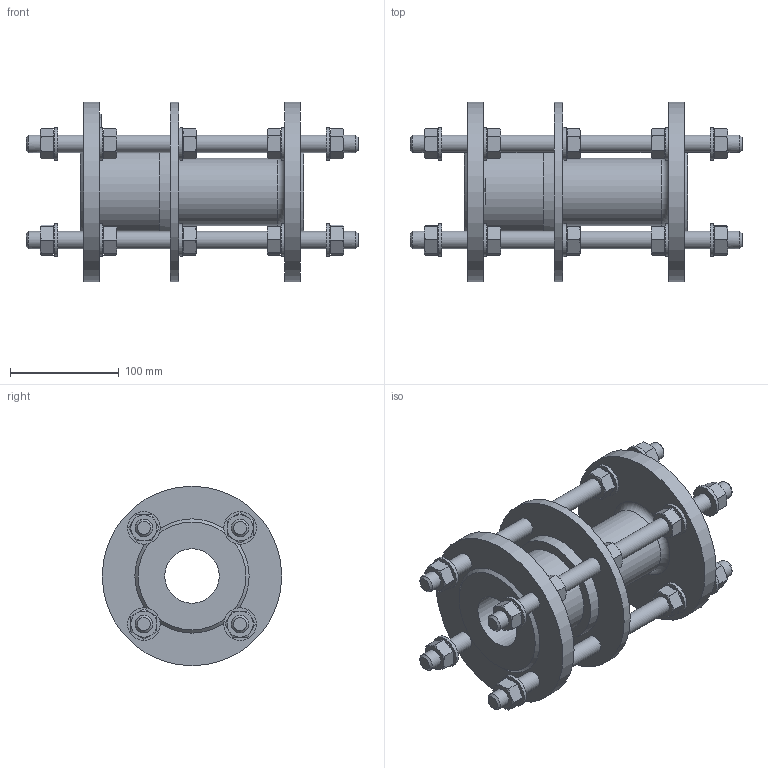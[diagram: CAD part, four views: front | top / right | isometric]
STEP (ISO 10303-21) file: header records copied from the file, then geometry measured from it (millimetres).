
FILE_DESCRIPTION (( 'STEP AP203' ), '1' );
FILE_NAME ('O_265_910_DN50_1XXXXX00_L=205_REV01.step', '2024-10-11T07:58:34', ( '' ), ( '' ), 'SwSTEP 2.0', 'SolidWorks 2022', '' );
FILE_SCHEMA (( 'CONFIG_CONTROL_DESIGN' ));
Length unit declared in the file: millimetre
Products named in the file (1): O_265_910_DN50_1XXXXX00_L=205_REV01
Bounding box: 305 x 165 x 165 mm (x, y, z)
Volume: 1406824.1 mm3; surface area: 266476.3 mm2
Topology: 1 solids, 1 shells, 548 faces, 1206 edges, 727 vertices
Faces by surface type: plane 344, cone 131, cylinder 72, torus 1
Full cylindrical faces by diameter (mm): 16 x24, 24 x20, 30 x20, 50 x1, 62 x1, 80 x1, 165 x3
Entity records: 15122 total; most frequent: CARTESIAN_POINT 3764, DIRECTION 2323, ORIENTED_EDGE 2172, EDGE_CURVE 1086, AXIS2_PLACEMENT_3D 928, EDGE_LOOP 715, VERTEX_POINT 689, FACE_OUTER_BOUND 619
